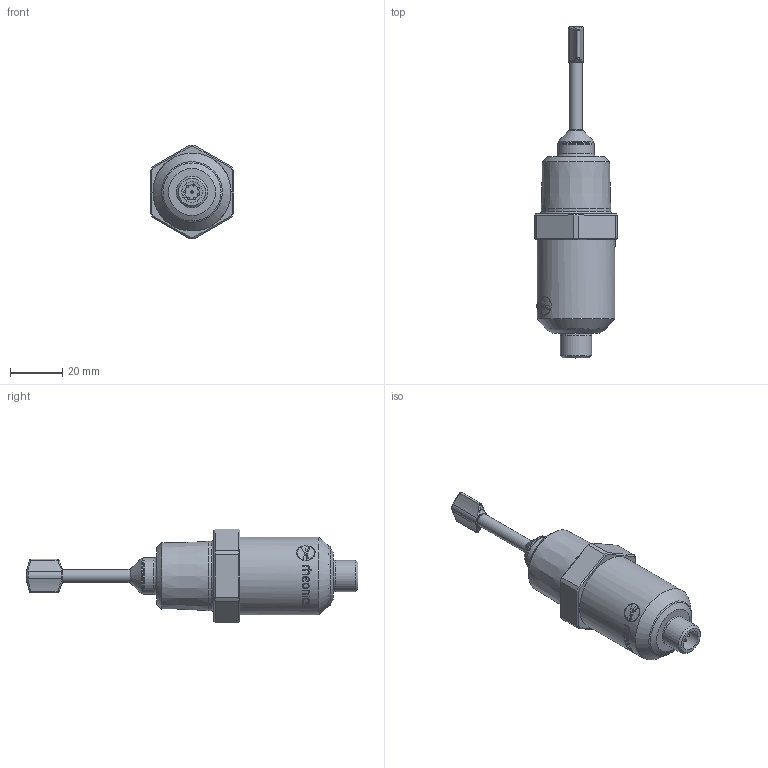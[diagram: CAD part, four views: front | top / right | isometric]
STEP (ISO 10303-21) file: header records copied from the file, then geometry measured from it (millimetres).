
FILE_DESCRIPTION(/* description */ ('Unknown'),/* implementation_level */ '2;1');
FILE_NAME(/* name */ 'SRD-X1-34N',/* time_stamp */ '2026-08-13T13:06:19-05:00',/* author */ ('Unknown'),/* organization */ ('Unknown'),/* preprocessor_version */ 'ST-DEVELOPER v20',/* originating_system */ 'Solid Edge',/* authorisation */ 'Unknown');
FILE_SCHEMA (('AUTOMOTIVE_DESIGN {1 0 10303 214 3 1 1}'));
Length unit declared in the file: millimetre
Products named in the file (1): PDM_011754
Bounding box: 32 x 127.65 x 36 mm (x, y, z)
Volume: 47688.9 mm3; surface area: 9328.5 mm2
Topology: 1 solids, 1 shells, 246 faces, 636 edges, 397 vertices
Faces by surface type: plane 71, bspline 64, cylinder 63, cone 28, torus 11, sphere 9
Full cylindrical faces by diameter (mm): 0.8 x8, 5.019 x2, 8 x1, 12 x2, 13.9 x1, 26.67 x1, 30 x1
Entity records: 9481 total; most frequent: CARTESIAN_POINT 4576, ORIENTED_EDGE 1106, DIRECTION 765, EDGE_CURVE 553, VERTEX_POINT 366, AXIS2_PLACEMENT_3D 319, EDGE_LOOP 303, FACE_BOUND 303
